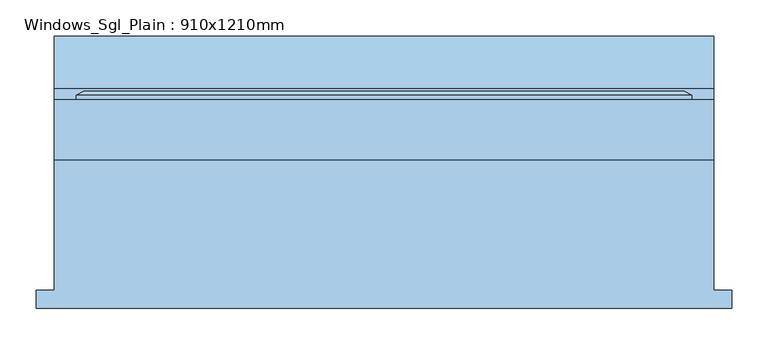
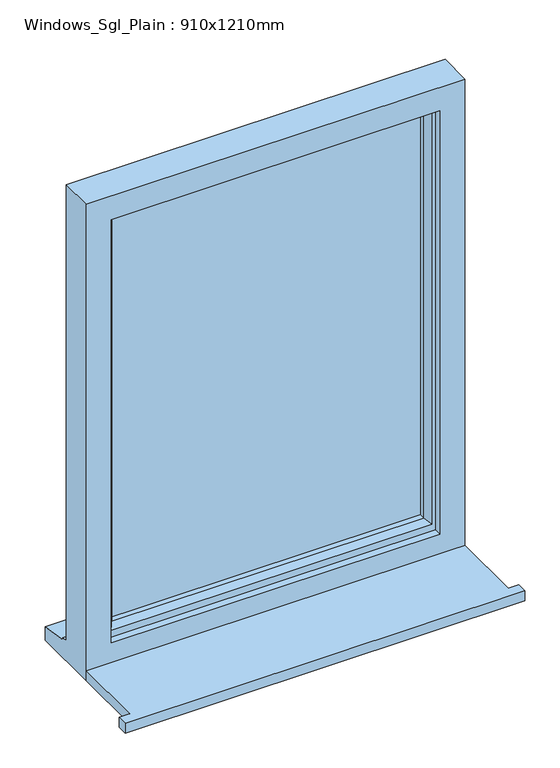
"""IFC4 building model written with IfcOpenShell, lengths in millimetres: window geometry, Windows_Sgl_Plain : 910x1210mm."""

from ifc_helpers import new_model, si_unit, frame, origin, place, context, project, spatial, polyline, outline, extrude, faceted_brep, source, transform, mapped, element, save


def windows_sgl_plain_910x1210mm_0e283bf1(model_context):
    return source(origin(), model_context, "Body", "SolidModel", [
        extrude(outline(polyline([(-480.0, -173.0434322), (-480.0, -148.0434322), (-455.0, -148.0434322), (-455.0, 31.9565678), (455.0, 31.9565678), (455.0, -148.0434322), (480.0, -148.0434322), (480.0, -173.0434322), (-480.0, -173.0434322)])), frame((0.0, 0.0, 900.0), z_axis=(0.0, 0.0, 1.0), x_axis=(1.0, 0.0, 0.0)), (0.0, 0.0, 1.0), 25.0),
        faceted_brep([(-455.0, 31.9565678, 900.0), (455.0, 31.9565678, 900.0), (455.0, 31.9565678, 2110.0), (-455.0, 31.9565678, 2110.0), (-395.0, 31.9565678, 2050.0), (395.0, 31.9565678, 2050.0), (395.0, 31.9565678, 975.0), (-395.0, 31.9565678, 975.0), (-455.0, 114.9565678, 2110.0), (-455.0, 114.9565678, 951.0), (-455.0, 129.9565678, 949.68767), (-455.0, 129.9565678, 944.7449676), (-455.0, 202.4565678, 933.8088847), (-455.0, 202.4565678, 900.0), (455.0, 114.9565678, 2110.0), (455.0, 114.9565678, 951.0), (-415.0, 114.9565678, 2070.0), (-415.0, 114.9565678, 963.0), (415.0, 114.9565678, 963.0), (415.0, 114.9565678, 2070.0), (-415.0, 49.9565678, 2070.0), (-415.0, 49.9565678, 963.0), (415.0, 49.9565678, 2070.0), (415.0, 49.9565678, 963.0), (-395.0, 49.9565678, 2050.0), (-395.0, 49.9565678, 975.0), (395.0, 49.9565678, 975.0), (395.0, 49.9565678, 2050.0), (455.0, 202.4565678, 900.0), (455.0, 202.4565678, 933.8088847), (455.0, 129.9565678, 944.7449676), (455.0, 129.9565678, 949.68767)], [[[0, 1, 2, 3], [4, 5, 6, 7]], [[0, 3, 8, 9, 10, 11, 12, 13]], [[9, 8, 14, 15], [16, 17, 18, 19]], [[17, 16, 20, 21]], [[20, 22, 23, 21], [24, 25, 26, 27]], [[24, 4, 7, 25]], [[3, 2, 14, 8]], [[16, 19, 22, 20]], [[5, 4, 24, 27]], [[15, 14, 2, 1, 28, 29, 30, 31]], [[19, 18, 23, 22]], [[5, 27, 26, 6]], [[28, 1, 0, 13]], [[29, 28, 13, 12]], [[30, 29, 12, 11]], [[31, 30, 11, 10]], [[15, 31, 10, 9]], [[21, 23, 18, 17]], [[7, 6, 26, 25]]]),
        extrude(outline(polyline([(385.0, 78.9565678), (-385.0, 78.9565678), (-385.0, 102.9565678), (385.0, 102.9565678), (385.0, 78.9565678)])), frame((0.0, 0.0, 993.0), z_axis=(0.0, 0.0, 1.0), x_axis=(1.0, 0.0, 0.0)), (0.0, 0.0, 1.0), 1047.0),
        faceted_brep([(-425.0, 114.9565678, 2080.0), (-425.0, 120.7300705, 2080.0), (-425.0, 120.7300705, 953.0), (-425.0, 114.9565678, 953.0), (-415.0, 49.9565678, 2070.0), (-415.0, 114.9565678, 2070.0), (-415.0, 114.9565678, 963.0), (-415.0, 49.9565678, 963.0), (-375.0, 64.4494677, 2030.0), (-385.1480377, 49.9565678, 2040.1480377), (-385.1480377, 49.9565678, 992.8519623), (-375.0, 64.4494677, 1003.0), (-375.0, 78.9565678, 2030.0), (-375.0, 78.9565678, 1003.0), (-385.0, 102.9565678, 2040.0), (-385.0, 78.9565678, 2040.0), (-385.0, 78.9565678, 993.0), (-385.0, 102.9565678, 993.0), (-375.0, 120.7300705, 2030.0), (-375.0, 102.9565678, 2030.0), (-375.0, 102.9565678, 1003.0), (-375.0, 120.7300705, 1003.0), (-392.4457548, 126.5035732, 2047.4457548), (-392.4457548, 126.5035732, 985.5542452), (-414.2153903, 126.5035732, 2069.2153903), (-414.2153903, 126.5035732, 963.7846097), (425.0, 120.7300705, 953.0), (425.0, 114.9565678, 953.0), (415.0, 114.9565678, 963.0), (415.0, 49.9565678, 963.0), (385.1480377, 49.9565678, 992.8519623), (375.0, 64.4494677, 1003.0), (375.0, 78.9565678, 1003.0), (385.0, 78.9565678, 993.0), (385.0, 102.9565678, 993.0), (375.0, 102.9565678, 1003.0), (375.0, 120.7300705, 1003.0), (392.4457548, 126.5035732, 985.5542452), (414.2153903, 126.5035732, 963.7846097), (425.0, 120.7300705, 2080.0), (425.0, 114.9565678, 2080.0), (415.0, 114.9565678, 2070.0), (415.0, 49.9565678, 2070.0), (385.1480377, 49.9565678, 2040.1480377), (375.0, 64.4494677, 2030.0), (375.0, 78.9565678, 2030.0), (385.0, 78.9565678, 2040.0), (385.0, 102.9565678, 2040.0), (375.0, 102.9565678, 2030.0), (375.0, 120.7300705, 2030.0), (392.4457548, 126.5035732, 2047.4457548), (414.2153903, 126.5035732, 2069.2153903)], [[[0, 1, 2, 3]], [[4, 5, 6, 7]], [[8, 9, 10, 11]], [[12, 8, 11, 13]], [[14, 15, 16, 17]], [[18, 19, 20, 21]], [[22, 18, 21, 23]], [[1, 24, 25, 2]], [[3, 2, 26, 27]], [[7, 6, 28, 29]], [[11, 10, 30, 31]], [[13, 11, 31, 32]], [[17, 16, 33, 34]], [[21, 20, 35, 36]], [[23, 21, 36, 37]], [[2, 25, 38, 26]], [[27, 26, 39, 40]], [[29, 28, 41, 42]], [[31, 30, 43, 44]], [[32, 31, 44, 45]], [[34, 33, 46, 47]], [[36, 35, 48, 49]], [[37, 36, 49, 50]], [[26, 38, 51, 39]], [[40, 39, 1, 0]], [[3, 27, 40, 0], [5, 41, 28, 6]], [[42, 41, 5, 4]], [[7, 29, 42, 4], [9, 43, 30, 10]], [[44, 43, 9, 8]], [[45, 44, 8, 12]], [[15, 46, 33, 16], [13, 32, 45, 12]], [[47, 46, 15, 14]], [[17, 34, 47, 14], [19, 48, 35, 20]], [[49, 48, 19, 18]], [[50, 49, 18, 22]], [[24, 51, 38, 25], [23, 37, 50, 22]], [[39, 51, 24, 1]]]),
    ])


if __name__ == "__main__":
    model = new_model("IFC4")
    model_context = context("Model", 3, world=origin())
    ifc_project = project(units=[si_unit("LENGTHUNIT", "METRE", prefix="MILLI")], contexts=[model_context])
    site = spatial("IfcSite", under=ifc_project)
    building = spatial("IfcBuilding", under=site)
    placement = place(None, origin())
    windows_sgl_plain_910x1210mm_shape = windows_sgl_plain_910x1210mm_0e283bf1(model_context)
    element("IfcWindow", 1, ObjectType="Windows_Sgl_Plain : 910x1210mm", at=placement, inside=building, context=model_context, shape_type="MappedRepresentation", body=[
        mapped(windows_sgl_plain_910x1210mm_shape, transform((0.0, 0.0, 0.0), x_axis=(1.0, 0.0, 0.0), y_axis=(0.0, 1.0, 0.0), z_axis=(0.0, 0.0, 1.0))),
    ])
    save(model, "model.ifc")
